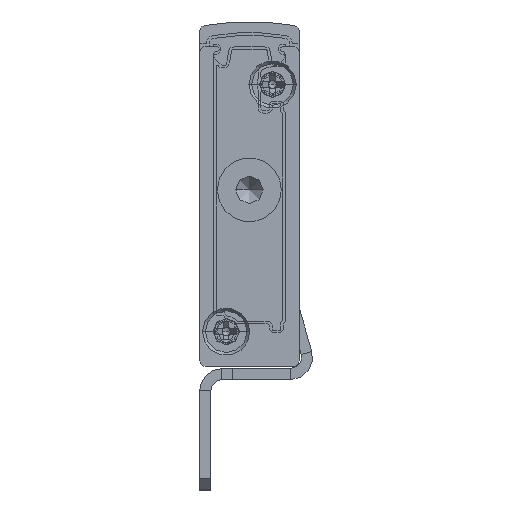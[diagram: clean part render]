
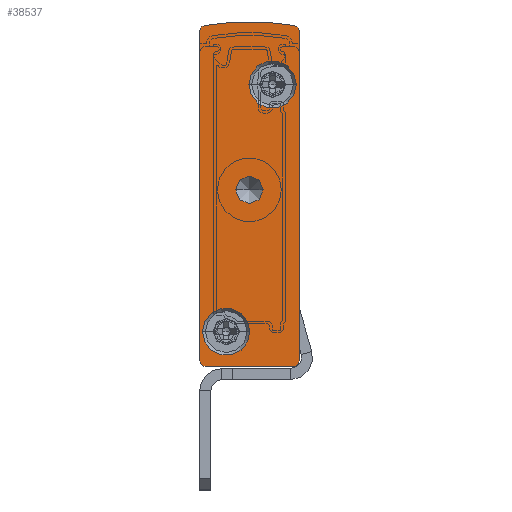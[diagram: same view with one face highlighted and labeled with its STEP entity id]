
A CAD part, front view. The second image highlights one B-rep face of the part: STEP entity #38537.
In plain terms, the highlighted planar face has unit normal (0, -1, 0).
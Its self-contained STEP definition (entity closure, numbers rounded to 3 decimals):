
#182 = ORIENTED_EDGE ( 'NONE', *, *, #22052, .T. ) ;
#474 = CARTESIAN_POINT ( 'NONE',  ( -4.55, -2.5, 25.55 ) ) ;
#620 = CARTESIAN_POINT ( 'NONE',  ( 0., -2.5, 0.5 ) ) ;
#662 = CARTESIAN_POINT ( 'NONE',  ( -3.25, -2.5, 16. ) ) ;
#1153 = ORIENTED_EDGE ( 'NONE', *, *, #29812, .F. ) ;
#1284 = VERTEX_POINT ( 'NONE', #3895 ) ;
#1474 = DIRECTION ( 'NONE',  ( 0., 1., 0. ) ) ;
#1544 = VERTEX_POINT ( 'NONE', #32404 ) ;
#1639 = VECTOR ( 'NONE', #22185, 1000. ) ;
#1714 = EDGE_CURVE ( 'NONE', #28567, #27922, #19014, .T. ) ;
#2044 = VERTEX_POINT ( 'NONE', #28952 ) ;
#2238 = CARTESIAN_POINT ( 'NONE',  ( -8.5, -2.5, 30.402 ) ) ;
#2506 = DIRECTION ( 'NONE',  ( 0., -1., 0. ) ) ;
#2627 = CARTESIAN_POINT ( 'NONE',  ( -8.5, -2.5, 0. ) ) ;
#2974 = DIRECTION ( 'NONE',  ( 0., -1., 0. ) ) ;
#3593 = CARTESIAN_POINT ( 'NONE',  ( -9., -2.5, 30.402 ) ) ;
#3895 = CARTESIAN_POINT ( 'NONE',  ( -8.592, -2.5, 30.893 ) ) ;
#3924 = AXIS2_PLACEMENT_3D ( 'NONE', #34719, #31461, #10204 ) ;
#4025 = CARTESIAN_POINT ( 'NONE',  ( -4.5, -2.5, 16. ) ) ;
#4194 = DIRECTION ( 'NONE',  ( 0., 0., -1. ) ) ;
#4536 = VECTOR ( 'NONE', #4194, 1000. ) ;
#4610 = EDGE_CURVE ( 'NONE', #12417, #8953, #31572, .T. ) ;
#4783 = CIRCLE ( 'NONE', #11017, 1.25 ) ;
#5230 = VERTEX_POINT ( 'NONE', #2627 ) ;
#5696 = ORIENTED_EDGE ( 'NONE', *, *, #28063, .T. ) ;
#5798 = CIRCLE ( 'NONE', #21103, 2.15 ) ;
#6008 = CIRCLE ( 'NONE', #8132, 0.5 ) ;
#6220 = CARTESIAN_POINT ( 'NONE',  ( -9., -2.5, 30.402 ) ) ;
#6469 = DIRECTION ( 'NONE',  ( 0., 0., 1. ) ) ;
#6634 = AXIS2_PLACEMENT_3D ( 'NONE', #29525, #2506, #23635 ) ;
#6706 = VERTEX_POINT ( 'NONE', #11134 ) ;
#7035 = FACE_BOUND ( 'NONE', #35693, .T. ) ;
#7597 = EDGE_LOOP ( 'NONE', ( #25736, #8540 ) ) ;
#7973 = FACE_BOUND ( 'NONE', #7597, .T. ) ;
#8132 = AXIS2_PLACEMENT_3D ( 'NONE', #11008, #29488, #23598 ) ;
#8239 = LINE ( 'NONE', #37494, #1639 ) ;
#8540 = ORIENTED_EDGE ( 'NONE', *, *, #25139, .F. ) ;
#8953 = VERTEX_POINT ( 'NONE', #620 ) ;
#9801 = VERTEX_POINT ( 'NONE', #662 ) ;
#10204 = DIRECTION ( 'NONE',  ( -1., 0., 0. ) ) ;
#10477 = EDGE_LOOP ( 'NONE', ( #5696, #182 ) ) ;
#10804 = DIRECTION ( 'NONE',  ( 0., 1., 0. ) ) ;
#11008 = CARTESIAN_POINT ( 'NONE',  ( -0.5, -2.5, 0.5 ) ) ;
#11017 = AXIS2_PLACEMENT_3D ( 'NONE', #4025, #31311, #31589 ) ;
#11134 = CARTESIAN_POINT ( 'NONE',  ( -4.45, -2.5, 3.15 ) ) ;
#11377 = AXIS2_PLACEMENT_3D ( 'NONE', #39035, #26536, #32710 ) ;
#11672 = CARTESIAN_POINT ( 'NONE',  ( -0.25, -2.5, 25.55 ) ) ;
#11883 = VECTOR ( 'NONE', #6469, 1000. ) ;
#12417 = VERTEX_POINT ( 'NONE', #35690 ) ;
#14048 = ORIENTED_EDGE ( 'NONE', *, *, #1714, .F. ) ;
#14231 = DIRECTION ( 'NONE',  ( -1., 0., 0. ) ) ;
#14262 = CARTESIAN_POINT ( 'NONE',  ( -2.4, -2.5, 25.55 ) ) ;
#14340 = CARTESIAN_POINT ( 'NONE',  ( -0.5, -2.5, 0. ) ) ;
#14402 = DIRECTION ( 'NONE',  ( 0., -1., 0. ) ) ;
#15074 = FACE_BOUND ( 'NONE', #10477, .T. ) ;
#15149 = EDGE_CURVE ( 'NONE', #8953, #34860, #6008, .T. ) ;
#17154 = EDGE_CURVE ( 'NONE', #27922, #1284, #22600, .T. ) ;
#17336 = DIRECTION ( 'NONE',  ( 1., 0., 0. ) ) ;
#17586 = AXIS2_PLACEMENT_3D ( 'NONE', #30274, #2974, #30147 ) ;
#17742 = CIRCLE ( 'NONE', #11377, 1.25 ) ;
#17836 = CIRCLE ( 'NONE', #3924, 0.5 ) ;
#18874 = ORIENTED_EDGE ( 'NONE', *, *, #23103, .F. ) ;
#19014 = LINE ( 'NONE', #6220, #11883 ) ;
#19036 = CARTESIAN_POINT ( 'NONE',  ( -8.5, -2.5, 30.402 ) ) ;
#19097 = CIRCLE ( 'NONE', #26932, 2.15 ) ;
#19574 = DIRECTION ( 'NONE',  ( -1., 0., 0. ) ) ;
#20293 = ORIENTED_EDGE ( 'NONE', *, *, #23378, .F. ) ;
#21089 = DIRECTION ( 'NONE',  ( 0., 1., 0. ) ) ;
#21103 = AXIS2_PLACEMENT_3D ( 'NONE', #14262, #14402, #17336 ) ;
#21933 = CIRCLE ( 'NONE', #31095, 0.5 ) ;
#22052 = EDGE_CURVE ( 'NONE', #9801, #2044, #17742, .T. ) ;
#22185 = DIRECTION ( 'NONE',  ( -1., 0., 0. ) ) ;
#22372 = ORIENTED_EDGE ( 'NONE', *, *, #25856, .F. ) ;
#22412 = CIRCLE ( 'NONE', #6634, 2.15 ) ;
#22447 = AXIS2_PLACEMENT_3D ( 'NONE', #2238, #32352, #14231 ) ;
#22600 = CIRCLE ( 'NONE', #29491, 0.5 ) ;
#23103 = EDGE_CURVE ( 'NONE', #1544, #12417, #21933, .T. ) ;
#23378 = EDGE_CURVE ( 'NONE', #1284, #1544, #25423, .T. ) ;
#23598 = DIRECTION ( 'NONE',  ( -1., 0., 0. ) ) ;
#23635 = DIRECTION ( 'NONE',  ( 1., 0., 0. ) ) ;
#24140 = DIRECTION ( 'NONE',  ( -1., 0., 0. ) ) ;
#24662 = CIRCLE ( 'NONE', #17586, 2.15 ) ;
#24895 = AXIS2_PLACEMENT_3D ( 'NONE', #31877, #10804, #38300 ) ;
#25139 = EDGE_CURVE ( 'NONE', #28863, #6706, #19097, .T. ) ;
#25423 = CIRCLE ( 'NONE', #24895, 23.658 ) ;
#25736 = ORIENTED_EDGE ( 'NONE', *, *, #37593, .F. ) ;
#25856 = EDGE_CURVE ( 'NONE', #5230, #28567, #17836, .T. ) ;
#26057 = EDGE_LOOP ( 'NONE', ( #27715, #14048, #22372, #29910, #32463, #27019, #18874, #20293 ) ) ;
#26536 = DIRECTION ( 'NONE',  ( 0., 1., 0. ) ) ;
#26598 = VERTEX_POINT ( 'NONE', #11672 ) ;
#26932 = AXIS2_PLACEMENT_3D ( 'NONE', #29427, #29828, #29707 ) ;
#27019 = ORIENTED_EDGE ( 'NONE', *, *, #4610, .F. ) ;
#27225 = CARTESIAN_POINT ( 'NONE',  ( -0.5, -2.5, 30.402 ) ) ;
#27715 = ORIENTED_EDGE ( 'NONE', *, *, #17154, .F. ) ;
#27922 = VERTEX_POINT ( 'NONE', #3593 ) ;
#28063 = EDGE_CURVE ( 'NONE', #2044, #9801, #4783, .T. ) ;
#28567 = VERTEX_POINT ( 'NONE', #34805 ) ;
#28863 = VERTEX_POINT ( 'NONE', #35612 ) ;
#28952 = CARTESIAN_POINT ( 'NONE',  ( -5.75, -2.5, 16. ) ) ;
#29427 = CARTESIAN_POINT ( 'NONE',  ( -6.6, -2.5, 3.15 ) ) ;
#29488 = DIRECTION ( 'NONE',  ( 0., 1., 0. ) ) ;
#29491 = AXIS2_PLACEMENT_3D ( 'NONE', #19036, #1474, #19574 ) ;
#29525 = CARTESIAN_POINT ( 'NONE',  ( -2.4, -2.5, 25.55 ) ) ;
#29707 = DIRECTION ( 'NONE',  ( 1., 0., 0. ) ) ;
#29812 = EDGE_CURVE ( 'NONE', #37207, #26598, #5798, .T. ) ;
#29828 = DIRECTION ( 'NONE',  ( 0., -1., 0. ) ) ;
#29910 = ORIENTED_EDGE ( 'NONE', *, *, #36929, .F. ) ;
#30147 = DIRECTION ( 'NONE',  ( 1., 0., 0. ) ) ;
#30274 = CARTESIAN_POINT ( 'NONE',  ( -6.6, -2.5, 3.15 ) ) ;
#31095 = AXIS2_PLACEMENT_3D ( 'NONE', #27225, #21089, #24140 ) ;
#31311 = DIRECTION ( 'NONE',  ( 0., 1., 0. ) ) ;
#31461 = DIRECTION ( 'NONE',  ( 0., 1., 0. ) ) ;
#31572 = LINE ( 'NONE', #38089, #4536 ) ;
#31589 = DIRECTION ( 'NONE',  ( -1., 0., 0. ) ) ;
#31877 = CARTESIAN_POINT ( 'NONE',  ( -4.5, -2.5, 7.592 ) ) ;
#32352 = DIRECTION ( 'NONE',  ( 0., 1., 0. ) ) ;
#32404 = CARTESIAN_POINT ( 'NONE',  ( -0.408, -2.5, 30.893 ) ) ;
#32463 = ORIENTED_EDGE ( 'NONE', *, *, #15149, .F. ) ;
#32710 = DIRECTION ( 'NONE',  ( -1., 0., 0. ) ) ;
#32885 = PLANE ( 'NONE',  #22447 ) ;
#33639 = EDGE_CURVE ( 'NONE', #26598, #37207, #22412, .T. ) ;
#34546 = ORIENTED_EDGE ( 'NONE', *, *, #33639, .F. ) ;
#34719 = CARTESIAN_POINT ( 'NONE',  ( -8.5, -2.5, 0.5 ) ) ;
#34805 = CARTESIAN_POINT ( 'NONE',  ( -9., -2.5, 0.5 ) ) ;
#34860 = VERTEX_POINT ( 'NONE', #14340 ) ;
#35612 = CARTESIAN_POINT ( 'NONE',  ( -8.75, -2.5, 3.15 ) ) ;
#35690 = CARTESIAN_POINT ( 'NONE',  ( 0., -2.5, 30.402 ) ) ;
#35693 = EDGE_LOOP ( 'NONE', ( #34546, #1153 ) ) ;
#36929 = EDGE_CURVE ( 'NONE', #34860, #5230, #8239, .T. ) ;
#37207 = VERTEX_POINT ( 'NONE', #474 ) ;
#37494 = CARTESIAN_POINT ( 'NONE',  ( -8.5, -2.5, 0. ) ) ;
#37593 = EDGE_CURVE ( 'NONE', #6706, #28863, #24662, .T. ) ;
#38089 = CARTESIAN_POINT ( 'NONE',  ( 0., -2.5, 30.402 ) ) ;
#38300 = DIRECTION ( 'NONE',  ( -1., 0., 0. ) ) ;
#38537 = ADVANCED_FACE ( 'NONE', ( #7035, #7973, #39458, #15074 ), #32885, .F. ) ;
#39035 = CARTESIAN_POINT ( 'NONE',  ( -4.5, -2.5, 16. ) ) ;
#39458 = FACE_OUTER_BOUND ( 'NONE', #26057, .T. ) ;
